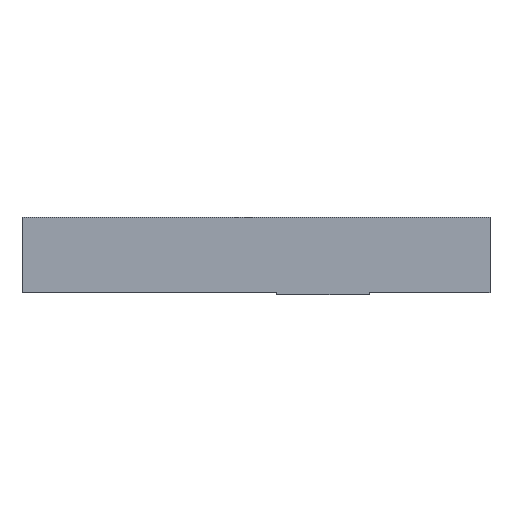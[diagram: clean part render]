
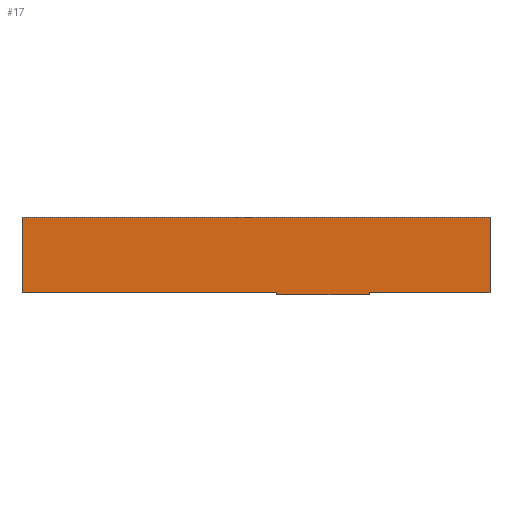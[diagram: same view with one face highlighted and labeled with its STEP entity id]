
A CAD part, top view. The second image highlights one B-rep face of the part: STEP entity #17.
In plain terms, the highlighted planar face has unit normal (0, 0, 1).
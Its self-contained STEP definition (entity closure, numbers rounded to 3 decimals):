
#17 = ADVANCED_FACE('',(#18),#32,.T.);
#18 = FACE_BOUND('',#19,.T.);
#19 = EDGE_LOOP('',(#20,#55,#83,#111,#139,#167,#195,#223));
#20 = ORIENTED_EDGE('',*,*,#21,.T.);
#21 = EDGE_CURVE('',#22,#24,#26,.T.);
#22 = VERTEX_POINT('',#23);
#23 = CARTESIAN_POINT('',(-5.,7.8,27.2));
#24 = VERTEX_POINT('',#25);
#25 = CARTESIAN_POINT('',(-5.,8.,27.2));
#26 = SURFACE_CURVE('',#27,(#31,#43),.PCURVE_S1.);
#27 = LINE('',#28,#29);
#28 = CARTESIAN_POINT('',(-5.,7.8,27.2));
#29 = VECTOR('',#30,1.);
#30 = DIRECTION('',(-0.,1.,0.));
#31 = PCURVE('',#32,#37);
#32 = PLANE('',#33);
#33 = AXIS2_PLACEMENT_3D('',#34,#35,#36);
#34 = CARTESIAN_POINT('',(-6.8,8.,27.2));
#35 = DIRECTION('',(0.,0.,1.));
#36 = DIRECTION('',(1.,0.,-0.));
#37 = DEFINITIONAL_REPRESENTATION('',(#38),#42);
#38 = LINE('',#39,#40);
#39 = CARTESIAN_POINT('',(1.8,-0.2));
#40 = VECTOR('',#41,1.);
#41 = DIRECTION('',(0.,1.));
#42 = ( GEOMETRIC_REPRESENTATION_CONTEXT(2) 
PARAMETRIC_REPRESENTATION_CONTEXT() REPRESENTATION_CONTEXT('2D SPACE',''
  ) );
#43 = PCURVE('',#44,#49);
#44 = PLANE('',#45);
#45 = AXIS2_PLACEMENT_3D('',#46,#47,#48);
#46 = CARTESIAN_POINT('',(-5.,7.8,0.));
#47 = DIRECTION('',(1.,0.,-0.));
#48 = DIRECTION('',(0.,0.,1.));
#49 = DEFINITIONAL_REPRESENTATION('',(#50),#54);
#50 = LINE('',#51,#52);
#51 = CARTESIAN_POINT('',(27.2,0.));
#52 = VECTOR('',#53,1.);
#53 = DIRECTION('',(0.,-1.));
#54 = ( GEOMETRIC_REPRESENTATION_CONTEXT(2) 
PARAMETRIC_REPRESENTATION_CONTEXT() REPRESENTATION_CONTEXT('2D SPACE',''
  ) );
#55 = ORIENTED_EDGE('',*,*,#56,.T.);
#56 = EDGE_CURVE('',#24,#57,#59,.T.);
#57 = VERTEX_POINT('',#58);
#58 = CARTESIAN_POINT('',(6.8,8.,27.2));
#59 = SURFACE_CURVE('',#60,(#64,#71),.PCURVE_S1.);
#60 = LINE('',#61,#62);
#61 = CARTESIAN_POINT('',(-6.8,8.,27.2));
#62 = VECTOR('',#63,1.);
#63 = DIRECTION('',(1.,0.,-0.));
#64 = PCURVE('',#32,#65);
#65 = DEFINITIONAL_REPRESENTATION('',(#66),#70);
#66 = LINE('',#67,#68);
#67 = CARTESIAN_POINT('',(0.,0.));
#68 = VECTOR('',#69,1.);
#69 = DIRECTION('',(1.,0.));
#70 = ( GEOMETRIC_REPRESENTATION_CONTEXT(2) 
PARAMETRIC_REPRESENTATION_CONTEXT() REPRESENTATION_CONTEXT('2D SPACE',''
  ) );
#71 = PCURVE('',#72,#77);
#72 = PLANE('',#73);
#73 = AXIS2_PLACEMENT_3D('',#74,#75,#76);
#74 = CARTESIAN_POINT('',(-6.8,8.,0.));
#75 = DIRECTION('',(-0.,1.,0.));
#76 = DIRECTION('',(0.,0.,1.));
#77 = DEFINITIONAL_REPRESENTATION('',(#78),#82);
#78 = LINE('',#79,#80);
#79 = CARTESIAN_POINT('',(27.2,0.));
#80 = VECTOR('',#81,1.);
#81 = DIRECTION('',(0.,1.));
#82 = ( GEOMETRIC_REPRESENTATION_CONTEXT(2) 
PARAMETRIC_REPRESENTATION_CONTEXT() REPRESENTATION_CONTEXT('2D SPACE',''
  ) );
#83 = ORIENTED_EDGE('',*,*,#84,.T.);
#84 = EDGE_CURVE('',#57,#85,#87,.T.);
#85 = VERTEX_POINT('',#86);
#86 = CARTESIAN_POINT('',(6.8,15.35,27.2));
#87 = SURFACE_CURVE('',#88,(#92,#99),.PCURVE_S1.);
#88 = LINE('',#89,#90);
#89 = CARTESIAN_POINT('',(6.8,8.,27.2));
#90 = VECTOR('',#91,1.);
#91 = DIRECTION('',(0.,1.,0.));
#92 = PCURVE('',#32,#93);
#93 = DEFINITIONAL_REPRESENTATION('',(#94),#98);
#94 = LINE('',#95,#96);
#95 = CARTESIAN_POINT('',(13.6,0.));
#96 = VECTOR('',#97,1.);
#97 = DIRECTION('',(0.,1.));
#98 = ( GEOMETRIC_REPRESENTATION_CONTEXT(2) 
PARAMETRIC_REPRESENTATION_CONTEXT() REPRESENTATION_CONTEXT('2D SPACE',''
  ) );
#99 = PCURVE('',#100,#105);
#100 = PLANE('',#101);
#101 = AXIS2_PLACEMENT_3D('',#102,#103,#104);
#102 = CARTESIAN_POINT('',(6.8,8.,0.));
#103 = DIRECTION('',(1.,0.,-0.));
#104 = DIRECTION('',(0.,0.,1.));
#105 = DEFINITIONAL_REPRESENTATION('',(#106),#110);
#106 = LINE('',#107,#108);
#107 = CARTESIAN_POINT('',(27.2,0.));
#108 = VECTOR('',#109,1.);
#109 = DIRECTION('',(0.,-1.));
#110 = ( GEOMETRIC_REPRESENTATION_CONTEXT(2) 
PARAMETRIC_REPRESENTATION_CONTEXT() REPRESENTATION_CONTEXT('2D SPACE',''
  ) );
#111 = ORIENTED_EDGE('',*,*,#112,.T.);
#112 = EDGE_CURVE('',#85,#113,#115,.T.);
#113 = VERTEX_POINT('',#114);
#114 = CARTESIAN_POINT('',(-39.,15.35,27.2));
#115 = SURFACE_CURVE('',#116,(#120,#127),.PCURVE_S1.);
#116 = LINE('',#117,#118);
#117 = CARTESIAN_POINT('',(6.8,15.35,27.2));
#118 = VECTOR('',#119,1.);
#119 = DIRECTION('',(-1.,0.,0.));
#120 = PCURVE('',#32,#121);
#121 = DEFINITIONAL_REPRESENTATION('',(#122),#126);
#122 = LINE('',#123,#124);
#123 = CARTESIAN_POINT('',(13.6,7.35));
#124 = VECTOR('',#125,1.);
#125 = DIRECTION('',(-1.,0.));
#126 = ( GEOMETRIC_REPRESENTATION_CONTEXT(2) 
PARAMETRIC_REPRESENTATION_CONTEXT() REPRESENTATION_CONTEXT('2D SPACE',''
  ) );
#127 = PCURVE('',#128,#133);
#128 = PLANE('',#129);
#129 = AXIS2_PLACEMENT_3D('',#130,#131,#132);
#130 = CARTESIAN_POINT('',(-39.,15.35,21.2));
#131 = DIRECTION('',(-0.,1.,0.));
#132 = DIRECTION('',(0.,0.,1.));
#133 = DEFINITIONAL_REPRESENTATION('',(#134),#138);
#134 = LINE('',#135,#136);
#135 = CARTESIAN_POINT('',(6.,45.8));
#136 = VECTOR('',#137,1.);
#137 = DIRECTION('',(0.,-1.));
#138 = ( GEOMETRIC_REPRESENTATION_CONTEXT(2) 
PARAMETRIC_REPRESENTATION_CONTEXT() REPRESENTATION_CONTEXT('2D SPACE',''
  ) );
#139 = ORIENTED_EDGE('',*,*,#140,.T.);
#140 = EDGE_CURVE('',#113,#141,#143,.T.);
#141 = VERTEX_POINT('',#142);
#142 = CARTESIAN_POINT('',(-39.,8.,27.2));
#143 = SURFACE_CURVE('',#144,(#148,#155),.PCURVE_S1.);
#144 = LINE('',#145,#146);
#145 = CARTESIAN_POINT('',(-39.,15.35,27.2));
#146 = VECTOR('',#147,1.);
#147 = DIRECTION('',(0.,-1.,0.));
#148 = PCURVE('',#32,#149);
#149 = DEFINITIONAL_REPRESENTATION('',(#150),#154);
#150 = LINE('',#151,#152);
#151 = CARTESIAN_POINT('',(-32.2,7.35));
#152 = VECTOR('',#153,1.);
#153 = DIRECTION('',(0.,-1.));
#154 = ( GEOMETRIC_REPRESENTATION_CONTEXT(2) 
PARAMETRIC_REPRESENTATION_CONTEXT() REPRESENTATION_CONTEXT('2D SPACE',''
  ) );
#155 = PCURVE('',#156,#161);
#156 = PLANE('',#157);
#157 = AXIS2_PLACEMENT_3D('',#158,#159,#160);
#158 = CARTESIAN_POINT('',(-39.,8.,21.2));
#159 = DIRECTION('',(1.,0.,-0.));
#160 = DIRECTION('',(0.,0.,1.));
#161 = DEFINITIONAL_REPRESENTATION('',(#162),#166);
#162 = LINE('',#163,#164);
#163 = CARTESIAN_POINT('',(6.,-7.35));
#164 = VECTOR('',#165,1.);
#165 = DIRECTION('',(0.,1.));
#166 = ( GEOMETRIC_REPRESENTATION_CONTEXT(2) 
PARAMETRIC_REPRESENTATION_CONTEXT() REPRESENTATION_CONTEXT('2D SPACE',''
  ) );
#167 = ORIENTED_EDGE('',*,*,#168,.T.);
#168 = EDGE_CURVE('',#141,#169,#171,.T.);
#169 = VERTEX_POINT('',#170);
#170 = CARTESIAN_POINT('',(-14.1,8.,27.2));
#171 = SURFACE_CURVE('',#172,(#176,#183),.PCURVE_S1.);
#172 = LINE('',#173,#174);
#173 = CARTESIAN_POINT('',(-39.,8.,27.2));
#174 = VECTOR('',#175,1.);
#175 = DIRECTION('',(1.,0.,-0.));
#176 = PCURVE('',#32,#177);
#177 = DEFINITIONAL_REPRESENTATION('',(#178),#182);
#178 = LINE('',#179,#180);
#179 = CARTESIAN_POINT('',(-32.2,0.));
#180 = VECTOR('',#181,1.);
#181 = DIRECTION('',(1.,0.));
#182 = ( GEOMETRIC_REPRESENTATION_CONTEXT(2) 
PARAMETRIC_REPRESENTATION_CONTEXT() REPRESENTATION_CONTEXT('2D SPACE',''
  ) );
#183 = PCURVE('',#184,#189);
#184 = PLANE('',#185);
#185 = AXIS2_PLACEMENT_3D('',#186,#187,#188);
#186 = CARTESIAN_POINT('',(-39.,8.,21.2));
#187 = DIRECTION('',(-0.,1.,0.));
#188 = DIRECTION('',(0.,0.,1.));
#189 = DEFINITIONAL_REPRESENTATION('',(#190),#194);
#190 = LINE('',#191,#192);
#191 = CARTESIAN_POINT('',(6.,0.));
#192 = VECTOR('',#193,1.);
#193 = DIRECTION('',(0.,1.));
#194 = ( GEOMETRIC_REPRESENTATION_CONTEXT(2) 
PARAMETRIC_REPRESENTATION_CONTEXT() REPRESENTATION_CONTEXT('2D SPACE',''
  ) );
#195 = ORIENTED_EDGE('',*,*,#196,.F.);
#196 = EDGE_CURVE('',#197,#169,#199,.T.);
#197 = VERTEX_POINT('',#198);
#198 = CARTESIAN_POINT('',(-14.1,7.8,27.2));
#199 = SURFACE_CURVE('',#200,(#204,#211),.PCURVE_S1.);
#200 = LINE('',#201,#202);
#201 = CARTESIAN_POINT('',(-14.1,7.8,27.2));
#202 = VECTOR('',#203,1.);
#203 = DIRECTION('',(-0.,1.,0.));
#204 = PCURVE('',#32,#205);
#205 = DEFINITIONAL_REPRESENTATION('',(#206),#210);
#206 = LINE('',#207,#208);
#207 = CARTESIAN_POINT('',(-7.3,-0.2));
#208 = VECTOR('',#209,1.);
#209 = DIRECTION('',(0.,1.));
#210 = ( GEOMETRIC_REPRESENTATION_CONTEXT(2) 
PARAMETRIC_REPRESENTATION_CONTEXT() REPRESENTATION_CONTEXT('2D SPACE',''
  ) );
#211 = PCURVE('',#212,#217);
#212 = PLANE('',#213);
#213 = AXIS2_PLACEMENT_3D('',#214,#215,#216);
#214 = CARTESIAN_POINT('',(-14.1,7.8,0.));
#215 = DIRECTION('',(1.,0.,-0.));
#216 = DIRECTION('',(0.,0.,1.));
#217 = DEFINITIONAL_REPRESENTATION('',(#218),#222);
#218 = LINE('',#219,#220);
#219 = CARTESIAN_POINT('',(27.2,0.));
#220 = VECTOR('',#221,1.);
#221 = DIRECTION('',(0.,-1.));
#222 = ( GEOMETRIC_REPRESENTATION_CONTEXT(2) 
PARAMETRIC_REPRESENTATION_CONTEXT() REPRESENTATION_CONTEXT('2D SPACE',''
  ) );
#223 = ORIENTED_EDGE('',*,*,#224,.T.);
#224 = EDGE_CURVE('',#197,#22,#225,.T.);
#225 = SURFACE_CURVE('',#226,(#230,#237),.PCURVE_S1.);
#226 = LINE('',#227,#228);
#227 = CARTESIAN_POINT('',(-14.1,7.8,27.2));
#228 = VECTOR('',#229,1.);
#229 = DIRECTION('',(1.,0.,-0.));
#230 = PCURVE('',#32,#231);
#231 = DEFINITIONAL_REPRESENTATION('',(#232),#236);
#232 = LINE('',#233,#234);
#233 = CARTESIAN_POINT('',(-7.3,-0.2));
#234 = VECTOR('',#235,1.);
#235 = DIRECTION('',(1.,0.));
#236 = ( GEOMETRIC_REPRESENTATION_CONTEXT(2) 
PARAMETRIC_REPRESENTATION_CONTEXT() REPRESENTATION_CONTEXT('2D SPACE',''
  ) );
#237 = PCURVE('',#238,#243);
#238 = PLANE('',#239);
#239 = AXIS2_PLACEMENT_3D('',#240,#241,#242);
#240 = CARTESIAN_POINT('',(-14.1,7.8,0.));
#241 = DIRECTION('',(-0.,1.,0.));
#242 = DIRECTION('',(0.,0.,1.));
#243 = DEFINITIONAL_REPRESENTATION('',(#244),#248);
#244 = LINE('',#245,#246);
#245 = CARTESIAN_POINT('',(27.2,0.));
#246 = VECTOR('',#247,1.);
#247 = DIRECTION('',(0.,1.));
#248 = ( GEOMETRIC_REPRESENTATION_CONTEXT(2) 
PARAMETRIC_REPRESENTATION_CONTEXT() REPRESENTATION_CONTEXT('2D SPACE',''
  ) );
